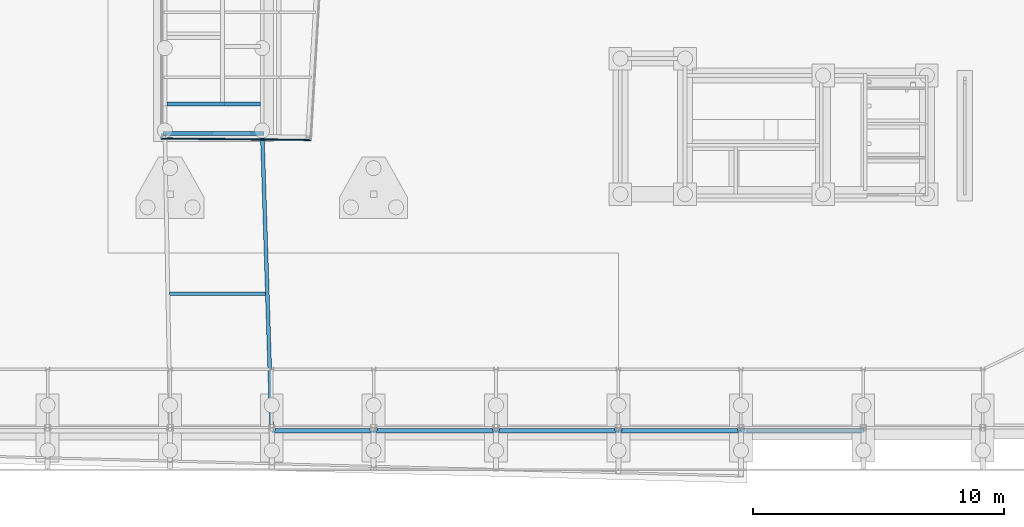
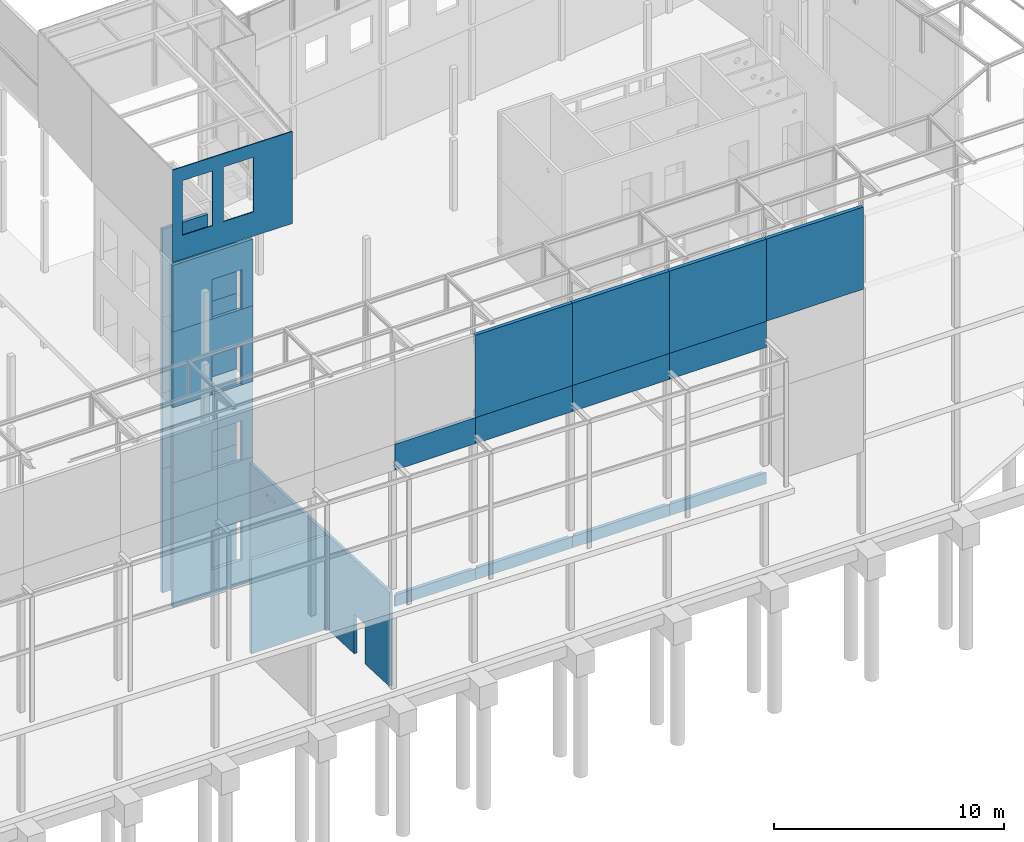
# One storey, part 73 of 82: 23 walls.
"""IFC2X3 building model written with IfcOpenShell, lengths in millimetres."""

from ifc_helpers import new_model, si_unit, frame, frame_2d, origin_with_axes, place, context, subcontext, project, spatial, polyline, rectangle, circle, outline, extrude, boolean, clip, halfspace, material, layer, layer_set, layer_usage, type_object, element, save


model = new_model("IFC2X3")

# Units and contexts
model_context = context("Model", 3, precision=1e-05, world=origin_with_axes())
body_context = subcontext(model_context, "Body", "Model", "MODEL_VIEW")
ifc_project = project(units=[si_unit("LENGTHUNIT", "METRE", prefix="MILLI"), si_unit("AREAUNIT", "SQUARE_METRE"), si_unit("VOLUMEUNIT", "CUBIC_METRE"), si_unit("MASSUNIT", "GRAM", prefix="KILO"), si_unit("TIMEUNIT", "SECOND"), si_unit("PLANEANGLEUNIT", "RADIAN"), si_unit("SOLIDANGLEUNIT", "STERADIAN"), si_unit("THERMODYNAMICTEMPERATUREUNIT", "DEGREE_CELSIUS"), si_unit("LUMINOUSINTENSITYUNIT", "LUMEN")], contexts=[model_context])

# Site, building, storey
site_placement = place(None, origin_with_axes())
site = spatial("IfcSite", under=ifc_project, at=site_placement, Name="Undefined", CompositionType="ELEMENT")
building_placement = place(site_placement, origin_with_axes())
building = spatial("IfcBuilding", under=site, at=building_placement, Name="Undefined", CompositionType="ELEMENT")
storey_placement = place(building_placement, origin_with_axes())
storey = spatial("IfcBuildingStorey", under=building, at=storey_placement, Name="Undefined", CompositionType="ELEMENT", Elevation=0.0)

# Walls
ifc_material_1 = material(Name="CONCRETE/C25/30")
ifc_layer_1 = layer(ifc_material_1, 150.0)
ifc_layer_set_1 = layer_set([ifc_layer_1], Name="Wall: Insitu CONCRETE/C25/30")
ifc_layer_usage_1 = layer_usage(ifc_layer_set_1, "AXIS2", "POSITIVE", -75.0)
wall_type_1 = type_object("IfcWallType", Name="4025*150", PredefinedType="NOTDEFINED")
wall_1_placement = place(storey_placement, frame((32848.7356613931, 12890.0686918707, 9305.0), z_axis=(0.0, 0.0, 1.0), x_axis=(-1.0, 0.0, 0.0)))
element("IfcWallStandardCase", 1, at=wall_1_placement, inside=storey, type_object=wall_type_1, material=ifc_layer_usage_1, Name="VOILE_15CM", ObjectType="4025*150", context=body_context, shape_type="SweptSolid", body=[
    extrude(rectangle(XDim=3724.97206241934, YDim=150.0, at=frame_2d((0.0, 1862.48603121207), x_axis=(0.0, -1.0))), frame((0.0, 0.0, 0.0), z_axis=(0.0, 0.0, 1.0), x_axis=(-2.77555756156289e-17, -1.0, 0.0)), (0.0, 0.0, 1.0), 4025.0),
])
ifc_layer_usage_2 = layer_usage(ifc_layer_set_1, "AXIS2", "POSITIVE", -75.0)
wall_2_placement = place(storey_placement, frame((28973.7636613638, 11719.9226121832, 9305.0), z_axis=(0.0, 0.0, 1.0), x_axis=(1.0, 0.0, 0.0)))
element("IfcWallStandardCase", 2, at=wall_2_placement, inside=storey, type_object=wall_type_1, material=ifc_layer_usage_2, Name="VOILE_15CM", ObjectType="4025*150", context=body_context, shape_type="CSG", body=[
    boolean("DIFFERENCE", extrude(rectangle(XDim=4024.97200000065, YDim=150.0, at=frame_2d((0.0, 2012.48600000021), x_axis=(0.0, -1.0))), frame((0.0, 0.0, 0.0), z_axis=(0.0, 0.0, 1.0), x_axis=(-2.77555756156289e-17, -1.0, 0.0)), (0.0, 0.0, 1.0), 4025.0), extrude(outline(polyline([(5.17284206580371e-08, 4.49290382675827e-10), (2100.0, 5.82076609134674e-11), (2100.0, 1499.99999999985), (0.0, 1499.99999999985), (5.17284206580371e-08, 4.49290382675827e-10)])), frame((1973.69953753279, 84.9999999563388, 2100.0), z_axis=(-2.77555756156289e-17, -1.0, 0.0), x_axis=(0.0, -6.50000002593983e-08, -0.999999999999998)), (0.0, 0.0, 1.0), 170.0)),
])
ifc_layer_usage_3 = layer_usage(ifc_layer_set_1, "AXIS2", "POSITIVE", -75.0)
wall_type_2 = type_object("IfcWallType", Name="4005*150", PredefinedType="NOTDEFINED")
wall_3_placement = place(storey_placement, frame((32848.7356613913, 12890.06869187, 5300.0), z_axis=(0.0, 0.0, 1.0), x_axis=(-1.0, 0.0, 0.0)))
element("IfcWallStandardCase", 3, at=wall_3_placement, inside=storey, type_object=wall_type_2, material=ifc_layer_usage_3, Name="VOILE_15CM", ObjectType="4005*150", context=body_context, shape_type="SweptSolid", body=[
    extrude(rectangle(XDim=3724.97206241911, YDim=150.0, at=frame_2d((0.0, 1862.48603121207), x_axis=(0.0, -1.0))), frame((0.0, 0.0, 0.0), z_axis=(0.0, 0.0, 1.0), x_axis=(-2.77555756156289e-17, -1.0, 0.0)), (0.0, 0.0, 1.0), 4005.0),
])
ifc_layer_usage_4 = layer_usage(ifc_layer_set_1, "AXIS2", "POSITIVE", -75.0)
wall_4_placement = place(storey_placement, frame((28973.7636613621, 11719.9226121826, 5300.0), z_axis=(0.0, 0.0, 1.0), x_axis=(1.0, 0.0, 0.0)))
element("IfcWallStandardCase", 4, at=wall_4_placement, inside=storey, type_object=wall_type_2, material=ifc_layer_usage_4, Name="VOILE_15CM", ObjectType="4005*150", context=body_context, shape_type="CSG", body=[
    boolean("DIFFERENCE", extrude(rectangle(XDim=4024.97200000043, YDim=150.0, at=frame_2d((0.0, 2012.48600000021), x_axis=(0.0, -1.0))), frame((0.0, 0.0, 0.0), z_axis=(0.0, 0.0, 1.0), x_axis=(-2.77555756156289e-17, -1.0, 0.0)), (0.0, 0.0, 1.0), 4005.0), extrude(outline(polyline([(5.17284206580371e-08, 4.49290382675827e-10), (2100.0, 5.82076609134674e-11), (2100.0, 1499.99999999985), (0.0, 1499.99999999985), (5.17284206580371e-08, 4.49290382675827e-10)])), frame((1973.69953753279, 84.9999999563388, 2100.0), z_axis=(-2.77555756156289e-17, -1.0, 0.0), x_axis=(0.0, -6.50000002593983e-08, -0.999999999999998)), (0.0, 0.0, 1.0), 170.0)),
])
ifc_material_2 = material(Name="STEEL/Steel_Undefined")
wall_type_3 = type_object("IfcWallType", Name="4900*50", PredefinedType="NOTDEFINED")
wall_5_placement = place(storey_placement, frame((28874.0020252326, 11517.9358902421, 17160.0003814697), z_axis=(0.0, 0.0, 1.0), x_axis=(0.999954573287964, -0.00953159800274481, 0.0)))
element("IfcWall", 5, at=wall_5_placement, inside=storey, type_object=wall_type_3, material=ifc_material_2, Name="HABILLAGE", ObjectType="4900*50", context=body_context, shape_type="CSG", body=[
    boolean("DIFFERENCE", boolean("DIFFERENCE", boolean("DIFFERENCE", boolean("DIFFERENCE", extrude(rectangle(XDim=6165.08584969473, YDim=50.0, at=frame_2d((0.0, 2999.43954166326), x_axis=(0.0, -1.0))), frame((0.0, 0.0, 0.0), z_axis=(0.0, 0.0, 1.0), x_axis=(-2.77555756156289e-17, -1.0, 0.0)), (0.0, 0.0, 1.0), 4900.0), extrude(rectangle(XDim=1500.0, YDim=2900.0, at=frame_2d((5.17284206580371e-08, 4.49290382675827e-10), x_axis=(1.0, 0.0))), frame((3305.65886127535, -35.0000000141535, 2739.99972534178), z_axis=(0.0, 1.0, 0.0), x_axis=(-1.0, 0.0, 0.0)), (0.0, 0.0, 1.0), 70.0)), extrude(rectangle(XDim=1500.0, YDim=2900.0, at=frame_2d((5.17284206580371e-08, 4.49290382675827e-10), x_axis=(1.0, 0.0))), frame((1255.88246330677, -35.0000000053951, 2715.00010681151), z_axis=(0.0, 1.0, 0.0), x_axis=(-1.0, 0.0, 0.0)), (0.0, 0.0, 1.0), 70.0)), halfspace(frame((5997.91969449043, -25.0000000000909, 2450.0), z_axis=(0.724445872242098, 0.689331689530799, 0.0), x_axis=(0.0, 0.0, 1.0)), False)), halfspace(frame((-0.0152597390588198, -25.0000000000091, 2450.0), z_axis=(0.71046795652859, -0.703729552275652, 0.0), x_axis=(0.0, 0.0, 1.0)), True)),
])
ifc_layer_2 = layer(ifc_material_1, 180.0)
ifc_layer_set_2 = layer_set([ifc_layer_2], Name="Wall: Insitu CONCRETE/C25/30")
ifc_layer_usage_5 = layer_usage(ifc_layer_set_2, "AXIS2", "POSITIVE", -90.0)
wall_type_4 = type_object("IfcWallType", Name="4370*180", PredefinedType="NOTDEFINED")
wall_6_placement = place(storey_placement, frame((42224.9999851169, -104.99999994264, 13030.0), z_axis=(0.0, 0.0, 1.0), x_axis=(-1.0, 0.0, 0.0)))
element("IfcWallStandardCase", 6, at=wall_6_placement, inside=storey, type_object=wall_type_4, material=ifc_layer_usage_5, Name="PANNEAU_FACADE", ObjectType="4370*180", context=body_context, shape_type="CSG", body=[
    boolean("DIFFERENCE", boolean("DIFFERENCE", extrude(rectangle(XDim=4874.99998420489, YDim=180.0, at=frame_2d((0.0, 2437.49999210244), x_axis=(0.0, -1.0))), frame((0.0, 0.0, 0.0), z_axis=(0.0, 0.0, 1.0), x_axis=(-2.77555756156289e-17, -1.0, 0.0)), (0.0, 0.0, 1.0), 4370.0), extrude(rectangle(XDim=265.0, YDim=265.0, at=frame_2d((5.17284206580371e-08, 4.49290382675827e-10), x_axis=(1.0, 0.0))), frame((-1.48822146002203e-05, -104.999999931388, 3830.0), z_axis=(0.0, -6.50000002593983e-08, -0.999999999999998), x_axis=(1.0, 0.0, 0.0)), (0.0, 0.0, 1.0), 3530.0)), extrude(rectangle(XDim=265.0, YDim=265.0, at=frame_2d((5.17284206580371e-08, 4.49290382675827e-10), x_axis=(1.0, 0.0))), frame((4874.99998511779, -104.999999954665, 3830.0), z_axis=(0.0, -6.50000002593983e-08, -0.999999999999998), x_axis=(1.0, 0.0, 0.0)), (0.0, 0.0, 1.0), 3530.0)),
])
ifc_layer_usage_6 = layer_usage(ifc_layer_set_2, "AXIS2", "POSITIVE", -90.0)
wall_7_placement = place(storey_placement, frame((47099.9999851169, -104.999999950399, 13030.0), z_axis=(0.0, 0.0, 1.0), x_axis=(-1.0, 0.0, 0.0)))
element("IfcWallStandardCase", 7, at=wall_7_placement, inside=storey, type_object=wall_type_4, material=ifc_layer_usage_6, Name="PANNEAU_FACADE", ObjectType="4370*180", context=body_context, shape_type="CSG", body=[
    boolean("DIFFERENCE", boolean("DIFFERENCE", extrude(rectangle(XDim=4874.99998420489, YDim=180.0, at=frame_2d((0.0, 2437.49999210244), x_axis=(0.0, -1.0))), frame((0.0, 0.0, 0.0), z_axis=(0.0, 0.0, 1.0), x_axis=(-2.77555756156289e-17, -1.0, 0.0)), (0.0, 0.0, 1.0), 4370.0), extrude(rectangle(XDim=265.0, YDim=265.0, at=frame_2d((5.17284206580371e-08, 4.49290382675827e-10), x_axis=(1.0, 0.0))), frame((-1.48822146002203e-05, -104.999999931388, 3830.0), z_axis=(0.0, -6.50000002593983e-08, -0.999999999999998), x_axis=(1.0, 0.0, 0.0)), (0.0, 0.0, 1.0), 3530.0)), extrude(rectangle(XDim=265.0, YDim=265.0, at=frame_2d((5.17284206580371e-08, 4.49290382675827e-10), x_axis=(1.0, 0.0))), frame((4874.99998511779, -104.999999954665, 3830.0), z_axis=(0.0, -6.50000002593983e-08, -0.999999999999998), x_axis=(1.0, 0.0, 0.0)), (0.0, 0.0, 1.0), 3530.0)),
])
ifc_layer_usage_7 = layer_usage(ifc_layer_set_2, "AXIS2", "POSITIVE", -90.0)
wall_8_placement = place(storey_placement, frame((51974.9999851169, -104.999999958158, 13030.0), z_axis=(0.0, 0.0, 1.0), x_axis=(-1.0, 0.0, 0.0)))
element("IfcWallStandardCase", 8, at=wall_8_placement, inside=storey, type_object=wall_type_4, material=ifc_layer_usage_7, Name="PANNEAU_FACADE", ObjectType="4370*180", context=body_context, shape_type="CSG", body=[
    boolean("DIFFERENCE", boolean("DIFFERENCE", extrude(rectangle(XDim=4874.99998420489, YDim=180.0, at=frame_2d((0.0, 2437.49999210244), x_axis=(0.0, -1.0))), frame((0.0, 0.0, 0.0), z_axis=(0.0, 0.0, 1.0), x_axis=(-2.77555756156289e-17, -1.0, 0.0)), (0.0, 0.0, 1.0), 4370.0), extrude(rectangle(XDim=265.0, YDim=265.0, at=frame_2d((5.17284206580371e-08, 4.49290382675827e-10), x_axis=(1.0, 0.0))), frame((-1.48822146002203e-05, -104.999999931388, 3830.0), z_axis=(0.0, -6.50000002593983e-08, -0.999999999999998), x_axis=(1.0, 0.0, 0.0)), (0.0, 0.0, 1.0), 3530.0)), extrude(rectangle(XDim=265.0, YDim=265.0, at=frame_2d((5.17284206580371e-08, 4.49290382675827e-10), x_axis=(1.0, 0.0))), frame((4874.99998511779, -104.999999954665, 3830.0), z_axis=(0.0, -6.50000002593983e-08, -0.999999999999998), x_axis=(1.0, 0.0, 0.0)), (0.0, 0.0, 1.0), 3530.0)),
])
ifc_layer_usage_8 = layer_usage(ifc_layer_set_2, "AXIS2", "POSITIVE", -90.0)
wall_9_placement = place(storey_placement, frame((56849.9999851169, -104.999999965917, 13030.0), z_axis=(0.0, 0.0, 1.0), x_axis=(-1.0, 0.0, 0.0)))
element("IfcWallStandardCase", 9, at=wall_9_placement, inside=storey, type_object=wall_type_4, material=ifc_layer_usage_8, Name="PANNEAU_FACADE", ObjectType="4370*180", context=body_context, shape_type="CSG", body=[
    boolean("DIFFERENCE", boolean("DIFFERENCE", extrude(rectangle(XDim=4874.99998420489, YDim=180.0, at=frame_2d((0.0, 2437.49999210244), x_axis=(0.0, -1.0))), frame((0.0, 0.0, 0.0), z_axis=(0.0, 0.0, 1.0), x_axis=(-2.77555756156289e-17, -1.0, 0.0)), (0.0, 0.0, 1.0), 4370.0), extrude(rectangle(XDim=265.0, YDim=265.0, at=frame_2d((5.17284206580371e-08, 4.49290382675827e-10), x_axis=(1.0, 0.0))), frame((-1.48822146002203e-05, -104.999999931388, 3830.0), z_axis=(0.0, -6.50000002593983e-08, -0.999999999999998), x_axis=(1.0, 0.0, 0.0)), (0.0, 0.0, 1.0), 3530.0)), extrude(rectangle(XDim=265.0, YDim=265.0, at=frame_2d((5.17284206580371e-08, 4.49290382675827e-10), x_axis=(1.0, 0.0))), frame((4874.99998511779, -104.999999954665, 3830.0), z_axis=(0.0, -6.50000002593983e-08, -0.999999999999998), x_axis=(1.0, 0.0, 0.0)), (0.0, 0.0, 1.0), 3530.0)),
])
ifc_layer_usage_9 = layer_usage(ifc_layer_set_1, "AXIS2", "POSITIVE", -75.0)
wall_type_5 = type_object("IfcWallType", Name="3530*150", PredefinedType="NOTDEFINED")
wall_10_placement = place(storey_placement, frame((28973.7636613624, 11719.9226121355, 13330.0), z_axis=(0.0, 0.0, 1.0), x_axis=(1.0, 0.0, 0.0)))
element("IfcWallStandardCase", 10, at=wall_10_placement, inside=storey, type_object=wall_type_5, material=ifc_layer_usage_9, Name="VOILE_15CM", ObjectType="3530*150", context=body_context, shape_type="CSG", body=[
    boolean("DIFFERENCE", extrude(rectangle(XDim=4024.97199999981, YDim=150.0, at=frame_2d((0.0, 2012.48600000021), x_axis=(0.0, -1.0))), frame((0.0, 0.0, 0.0), z_axis=(0.0, 0.0, 1.0), x_axis=(-2.77555756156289e-17, -1.0, 0.0)), (0.0, 0.0, 1.0), 3530.0), extrude(outline(polyline([(5.17284206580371e-08, 4.49290382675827e-10), (2100.0, 5.82076609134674e-11), (2100.0, 1499.99999999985), (0.0, 1499.99999999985), (5.17284206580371e-08, 4.49290382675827e-10)])), frame((1973.69953753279, 84.9999999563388, 2100.0), z_axis=(-2.77555756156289e-17, -1.0, 0.0), x_axis=(0.0, -6.50000002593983e-08, -0.999999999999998)), (0.0, 0.0, 1.0), 170.0)),
])
ifc_layer_usage_10 = layer_usage(ifc_layer_set_1, "AXIS2", "POSITIVE", -75.0)
wall_type_6 = type_object("IfcWallType", Name="4700*150", PredefinedType="NOTDEFINED")
wall_11_placement = place(storey_placement, frame((32848.7356613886, 12890.0686917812, 13330.0), z_axis=(0.0, 0.0, 1.0), x_axis=(-1.0, 0.0, 0.0)))
element("IfcWallStandardCase", 11, at=wall_11_placement, inside=storey, type_object=wall_type_6, material=ifc_layer_usage_10, Name="VOILE_15CM", ObjectType="4700*150", context=body_context, shape_type="CSG", body=[
    boolean("DIFFERENCE", extrude(rectangle(XDim=3724.97206242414, YDim=150.0, at=frame_2d((0.0, 1862.48603121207), x_axis=(0.0, -1.0))), frame((0.0, 0.0, 0.0), z_axis=(0.0, 0.0, 1.0), x_axis=(-2.77555756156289e-17, -1.0, 0.0)), (0.0, 0.0, 1.0), 4700.0), extrude(outline(polyline([(5.17284206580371e-08, 4.49290382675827e-10), (1470.0, 1.2732925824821e-10), (1470.0, 1429.97204589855), (0.0, 1429.97204589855), (5.17284206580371e-08, 4.49290382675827e-10)])), frame((1429.97203121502, -77.500000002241, 5000.0), z_axis=(0.0, 1.0, 0.0), x_axis=(0.0, -6.50000002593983e-08, -0.999999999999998)), (0.0, 0.0, 1.0), 155.0)),
])
ifc_layer_usage_11 = layer_usage(ifc_layer_set_2, "AXIS2", "POSITIVE", -90.0)
wall_type_7 = type_object("IfcWallType", Name="1380*180", PredefinedType="NOTDEFINED")
wall_12_placement = place(storey_placement, frame((37349.9999851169, -104.99999993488, 11650.0), z_axis=(0.0, 0.0, 1.0), x_axis=(-1.0, 0.0, 0.0)))
element("IfcWallStandardCase", 12, at=wall_12_placement, inside=storey, type_object=wall_type_7, material=ifc_layer_usage_11, Name="PANNEAU_FACADE", ObjectType="1380*180", context=body_context, shape_type="CSG", body=[
    boolean("DIFFERENCE", boolean("DIFFERENCE", extrude(rectangle(XDim=4049.999985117, YDim=180.0, at=frame_2d((0.0, 2024.9999925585), x_axis=(0.0, -1.0))), frame((0.0, 0.0, 0.0), z_axis=(0.0, 0.0, 1.0), x_axis=(-2.77555756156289e-17, -1.0, 0.0)), (0.0, 0.0, 1.0), 1380.0), extrude(rectangle(XDim=265.0, YDim=265.0, at=frame_2d((5.17284206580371e-08, 4.49290382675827e-10), x_axis=(1.0, 0.0))), frame((4050.00000000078, -104.999999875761, 1380.0), z_axis=(0.0, -6.50000002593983e-08, -0.999999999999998), x_axis=(1.0, 0.0, 0.0)), (0.0, 0.0, 1.0), 7730.0)), extrude(rectangle(XDim=265.0, YDim=265.0, at=frame_2d((5.17284206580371e-08, 4.49290382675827e-10), x_axis=(1.0, 0.0))), frame((7.71251507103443e-10, -104.999999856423, 1380.0), z_axis=(0.0, -6.50000002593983e-08, -0.999999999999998), x_axis=(1.0, 0.0, 0.0)), (0.0, 0.0, 1.0), 7730.0)),
])
ifc_layer_usage_12 = layer_usage(ifc_layer_set_2, "AXIS2", "POSITIVE", -90.0)
wall_13_placement = place(storey_placement, frame((42224.9999851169, -104.99999994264, 11650.0), z_axis=(0.0, 0.0, 1.0), x_axis=(-1.0, 0.0, 0.0)))
element("IfcWallStandardCase", 13, at=wall_13_placement, inside=storey, type_object=wall_type_7, material=ifc_layer_usage_12, Name="PANNEAU_FACADE", ObjectType="1380*180", context=body_context, shape_type="CSG", body=[
    boolean("DIFFERENCE", boolean("DIFFERENCE", extrude(rectangle(XDim=4874.99998420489, YDim=180.0, at=frame_2d((0.0, 2437.49999210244), x_axis=(0.0, -1.0))), frame((0.0, 0.0, 0.0), z_axis=(0.0, 0.0, 1.0), x_axis=(-2.77555756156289e-17, -1.0, 0.0)), (0.0, 0.0, 1.0), 1380.0), extrude(rectangle(XDim=260.0, YDim=260.0, at=frame_2d((5.17284206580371e-08, 4.49290382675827e-10), x_axis=(1.0, 0.0))), frame((4874.99998514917, -104.999999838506, 1380.0), z_axis=(0.0, -6.50000002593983e-08, -0.999999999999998), x_axis=(1.0, 0.0, 0.0)), (0.0, 0.0, 1.0), 7730.0)), extrude(rectangle(XDim=265.0, YDim=265.0, at=frame_2d((5.17284206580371e-08, 4.49290382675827e-10), x_axis=(1.0, 0.0))), frame((7.71251507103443e-10, -104.999999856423, 1380.0), z_axis=(0.0, -6.50000002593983e-08, -0.999999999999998), x_axis=(1.0, 0.0, 0.0)), (0.0, 0.0, 1.0), 7730.0)),
])
ifc_layer_usage_13 = layer_usage(ifc_layer_set_2, "AXIS2", "POSITIVE", -90.0)
wall_14_placement = place(storey_placement, frame((47099.9999851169, -104.999999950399, 11650.0), z_axis=(0.0, 0.0, 1.0), x_axis=(-1.0, 0.0, 0.0)))
element("IfcWallStandardCase", 14, at=wall_14_placement, inside=storey, type_object=wall_type_7, material=ifc_layer_usage_13, Name="PANNEAU_FACADE", ObjectType="1380*180", context=body_context, shape_type="CSG", body=[
    boolean("DIFFERENCE", boolean("DIFFERENCE", extrude(rectangle(XDim=4874.99998420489, YDim=180.0, at=frame_2d((0.0, 2437.49999210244), x_axis=(0.0, -1.0))), frame((0.0, 0.0, 0.0), z_axis=(0.0, 0.0, 1.0), x_axis=(-2.77555756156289e-17, -1.0, 0.0)), (0.0, 0.0, 1.0), 1380.0), extrude(rectangle(XDim=265.0, YDim=265.0, at=frame_2d((5.17284206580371e-08, 4.49290382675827e-10), x_axis=(1.0, 0.0))), frame((4874.99998514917, -104.999999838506, 1380.0), z_axis=(0.0, -6.50000002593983e-08, -0.999999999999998), x_axis=(1.0, 0.0, 0.0)), (0.0, 0.0, 1.0), 7730.0)), extrude(rectangle(XDim=265.0, YDim=265.0, at=frame_2d((5.17284206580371e-08, 4.49290382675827e-10), x_axis=(1.0, 0.0))), frame((7.71251507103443e-10, -104.999999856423, 1380.0), z_axis=(0.0, -6.50000002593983e-08, -0.999999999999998), x_axis=(1.0, 0.0, 0.0)), (0.0, 0.0, 1.0), 7730.0)),
])
ifc_layer_usage_14 = layer_usage(ifc_layer_set_2, "AXIS2", "POSITIVE", -90.0)
wall_15_placement = place(storey_placement, frame((51974.9999851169, -104.999999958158, 11650.0), z_axis=(0.0, 0.0, 1.0), x_axis=(-1.0, 0.0, 0.0)))
solid_1 = boolean("DIFFERENCE", extrude(rectangle(XDim=4874.99999908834, YDim=180.0, at=frame_2d((0.0, 2437.49999210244), x_axis=(0.0, -1.0))), frame((-4875.00001488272, 3.15192068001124e-07, 14305.0), z_axis=(0.0, 0.0, 1.0), x_axis=(-2.77555756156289e-17, -1.0, 0.0)), (0.0, 0.0, 1.0), 3725.0), extrude(outline(polyline([(5.17284206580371e-08, 4.49290382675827e-10), (249.434494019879, 4.18367562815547e-10), (249.418747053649, 14305.0000000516), (-0.0157491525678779, 14305.000000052), (5.17284206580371e-08, 4.49290382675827e-10)])), frame((-1.57948306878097e-05, 87.5000000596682, 0.0), z_axis=(0.0, 1.0, 0.0), x_axis=(-0.999999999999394, 0.0, -1.10100000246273e-06)), (0.0, 0.0, 1.0), 185.0))
solid_2 = boolean("DIFFERENCE", extrude(rectangle(XDim=265.0, YDim=265.0, at=frame_2d((5.17284206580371e-08, 4.49290382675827e-10), x_axis=(1.0, 0.0))), frame((7.71251507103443e-10, -104.999999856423, 1380.0), z_axis=(0.0, -6.50000002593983e-08, -0.999999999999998), x_axis=(1.0, 0.0, 0.0)), (0.0, 0.0, 1.0), 3725.0), solid_1)
element("IfcWallStandardCase", 15, at=wall_15_placement, inside=storey, type_object=wall_type_7, material=ifc_layer_usage_14, Name="PANNEAU_FACADE", ObjectType="1380*180", context=body_context, shape_type="CSG", body=[
    boolean("DIFFERENCE", boolean("DIFFERENCE", extrude(rectangle(XDim=4874.99998420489, YDim=180.0, at=frame_2d((0.0, 2437.49999210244), x_axis=(0.0, -1.0))), frame((0.0, 0.0, 0.0), z_axis=(0.0, 0.0, 1.0), x_axis=(-2.77555756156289e-17, -1.0, 0.0)), (0.0, 0.0, 1.0), 1380.0), extrude(rectangle(XDim=265.0, YDim=265.0, at=frame_2d((5.17284206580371e-08, 4.49290382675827e-10), x_axis=(1.0, 0.0))), frame((4874.99998514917, -104.999999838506, 1380.0), z_axis=(0.0, -6.50000002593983e-08, -0.999999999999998), x_axis=(1.0, 0.0, 0.0)), (0.0, 0.0, 1.0), 7730.0)), solid_2),
])
ifc_layer_usage_15 = layer_usage(ifc_layer_set_2, "AXIS2", "POSITIVE", -90.0)
wall_type_8 = type_object("IfcWallType", Name="600*180", PredefinedType="NOTDEFINED")
wall_16_placement = place(storey_placement, frame((37350.0000482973, -104.99999993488, 4400.0), z_axis=(0.0, 0.0, 1.0), x_axis=(-1.0, 0.0, 0.0)))
element("IfcWallStandardCase", 16, at=wall_16_placement, inside=storey, type_object=wall_type_8, material=ifc_layer_usage_15, Name="PANNEAU_FACADE", ObjectType="600*180", context=body_context, shape_type="CSG", body=[
    boolean("DIFFERENCE", boolean("DIFFERENCE", extrude(rectangle(XDim=4049.99998420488, YDim=180.0, at=frame_2d((0.0, 2024.9999925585), x_axis=(0.0, -1.0))), frame((0.0, 0.0, 0.0), z_axis=(0.0, 0.0, 1.0), x_axis=(-2.77555756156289e-17, -1.0, 0.0)), (0.0, 0.0, 1.0), 600.0), extrude(rectangle(XDim=265.0, YDim=265.0, at=frame_2d((5.17284206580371e-08, 4.49290382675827e-10), x_axis=(1.0, 0.0))), frame((4050.00006462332, -105.000000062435, 11800.0), z_axis=(0.0, -6.50000002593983e-08, -0.999999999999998), x_axis=(1.0, 0.0, 0.0)), (0.0, 0.0, 1.0), 16650.0)), extrude(rectangle(XDim=265.0, YDim=265.0, at=frame_2d((5.17284206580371e-08, 4.49290382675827e-10), x_axis=(1.0, 0.0))), frame((6.45597028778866e-05, -105.000000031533, 11800.0), z_axis=(0.0, -6.50000002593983e-08, -0.999999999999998), x_axis=(1.0, 0.0, 0.0)), (0.0, 0.0, 1.0), 16650.0)),
])
ifc_layer_usage_16 = layer_usage(ifc_layer_set_2, "AXIS2", "POSITIVE", -90.0)
wall_17_placement = place(storey_placement, frame((42225.0000325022, -104.99999994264, 4400.0), z_axis=(0.0, 0.0, 1.0), x_axis=(-1.0, 0.0, 0.0)))
element("IfcWallStandardCase", 17, at=wall_17_placement, inside=storey, type_object=wall_type_8, material=ifc_layer_usage_16, Name="PANNEAU_FACADE", ObjectType="600*180", context=body_context, shape_type="CSG", body=[
    boolean("DIFFERENCE", boolean("DIFFERENCE", extrude(rectangle(XDim=4874.99998420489, YDim=180.0, at=frame_2d((0.0, 2437.49999210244), x_axis=(0.0, -1.0))), frame((0.0, 0.0, 0.0), z_axis=(0.0, 0.0, 1.0), x_axis=(-2.77555756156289e-17, -1.0, 0.0)), (0.0, 0.0, 1.0), 600.0), extrude(rectangle(XDim=265.0, YDim=265.0, at=frame_2d((5.17284206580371e-08, 4.49290382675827e-10), x_axis=(1.0, 0.0))), frame((4875.00003290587, -105.000000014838, 11800.0), z_axis=(0.0, -6.50000002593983e-08, -0.999999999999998), x_axis=(1.0, 0.0, 0.0)), (0.0, 0.0, 1.0), 16650.0)), extrude(rectangle(XDim=265.0, YDim=265.0, at=frame_2d((5.17284206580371e-08, 4.49290382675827e-10), x_axis=(1.0, 0.0))), frame((6.45597028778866e-05, -105.000000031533, 11800.0), z_axis=(0.0, -6.50000002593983e-08, -0.999999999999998), x_axis=(1.0, 0.0, 0.0)), (0.0, 0.0, 1.0), 16650.0)),
])
ifc_layer_usage_17 = layer_usage(ifc_layer_set_2, "AXIS2", "POSITIVE", -90.0)
wall_18_placement = place(storey_placement, frame((47100.0000167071, -104.999999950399, 4400.0), z_axis=(0.0, 0.0, 1.0), x_axis=(-1.0, 0.0, 0.0)))
element("IfcWallStandardCase", 18, at=wall_18_placement, inside=storey, type_object=wall_type_8, material=ifc_layer_usage_17, Name="PANNEAU_FACADE", ObjectType="600*180", context=body_context, shape_type="CSG", body=[
    boolean("DIFFERENCE", boolean("DIFFERENCE", extrude(rectangle(XDim=4874.99998420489, YDim=180.0, at=frame_2d((0.0, 2437.49999210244), x_axis=(0.0, -1.0))), frame((0.0, 0.0, 0.0), z_axis=(0.0, 0.0, 1.0), x_axis=(-2.77555756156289e-17, -1.0, 0.0)), (0.0, 0.0, 1.0), 600.0), extrude(rectangle(XDim=265.0, YDim=265.0, at=frame_2d((5.17284206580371e-08, 4.49290382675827e-10), x_axis=(1.0, 0.0))), frame((4875.00003290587, -105.000000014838, 11800.0), z_axis=(0.0, -6.50000002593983e-08, -0.999999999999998), x_axis=(1.0, 0.0, 0.0)), (0.0, 0.0, 1.0), 16650.0)), extrude(rectangle(XDim=265.0, YDim=265.0, at=frame_2d((5.17284206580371e-08, 4.49290382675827e-10), x_axis=(1.0, 0.0))), frame((6.45597028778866e-05, -105.000000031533, 11800.0), z_axis=(0.0, -6.50000002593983e-08, -0.999999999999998), x_axis=(1.0, 0.0, 0.0)), (0.0, 0.0, 1.0), 16650.0)),
])
ifc_layer_usage_18 = layer_usage(ifc_layer_set_2, "AXIS2", "POSITIVE", -90.0)
wall_19_placement = place(storey_placement, frame((51975.000000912, -104.999999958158, 4400.0), z_axis=(0.0, 0.0, 1.0), x_axis=(-1.0, 0.0, 0.0)))
element("IfcWallStandardCase", 19, at=wall_19_placement, inside=storey, type_object=wall_type_8, material=ifc_layer_usage_18, Name="PANNEAU_FACADE", ObjectType="600*180", context=body_context, shape_type="CSG", body=[
    boolean("DIFFERENCE", boolean("DIFFERENCE", extrude(rectangle(XDim=4874.99998420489, YDim=180.0, at=frame_2d((0.0, 2437.49999210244), x_axis=(0.0, -1.0))), frame((0.0, 0.0, 0.0), z_axis=(0.0, 0.0, 1.0), x_axis=(-2.77555756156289e-17, -1.0, 0.0)), (0.0, 0.0, 1.0), 600.0), extrude(rectangle(XDim=265.0, YDim=265.0, at=frame_2d((5.17284206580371e-08, 4.49290382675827e-10), x_axis=(1.0, 0.0))), frame((4875.00003290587, -105.000000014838, 11800.0), z_axis=(0.0, -6.50000002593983e-08, -0.999999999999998), x_axis=(1.0, 0.0, 0.0)), (0.0, 0.0, 1.0), 16650.0)), extrude(rectangle(XDim=265.0, YDim=265.0, at=frame_2d((5.17284206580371e-08, 4.49290382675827e-10), x_axis=(1.0, 0.0))), frame((1.08595850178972e-06, -104.999999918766, 11800.0), z_axis=(0.0, -6.50000002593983e-08, -0.999999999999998), x_axis=(1.0, 0.0, 0.0)), (0.0, 0.0, 1.0), 16650.0)),
])
ifc_material_3 = material(Name="CONCRETE/BRIQUE")
wall_type_9 = type_object("IfcWallType", Name="5000*150", PredefinedType="NOTDEFINED")
wall_20_placement = place(storey_placement, frame((33292.1371443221, -2.37115554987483, 0.0), z_axis=(0.0, 0.0, 1.0), x_axis=(-0.0316171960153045, 0.999500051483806, 0.0)))
solid_3 = boolean("DIFFERENCE", boolean("DIFFERENCE", boolean("DIFFERENCE", boolean("DIFFERENCE", boolean("DIFFERENCE", boolean("DIFFERENCE", boolean("DIFFERENCE", boolean("DIFFERENCE", extrude(rectangle(XDim=11541.5601474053, YDim=150.0, at=frame_2d((0.0, 5892.77854747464), x_axis=(0.0, -1.0))), frame((0.0, 0.0, 0.0), z_axis=(0.0, 0.0, 1.0), x_axis=(-2.77555756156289e-17, -1.0, 0.0)), (0.0, 0.0, 1.0), 5000.0), extrude(circle(Radius=200.0, at=frame_2d((5.17284206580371e-08, 4.49290382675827e-10), x_axis=(1.0, 0.0))), frame((2852.78409394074, -85.0000000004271, 3800.00048828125), z_axis=(0.0, 1.0, 0.0), x_axis=(-1.0, 0.0, 0.0)), (0.0, 0.0, 1.0), 170.0)), extrude(circle(Radius=200.0, at=frame_2d((5.17284206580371e-08, 4.49290382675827e-10), x_axis=(1.0, 0.0))), frame((10916.6464507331, -85.000000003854, 3799.99953460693), z_axis=(0.0, 1.0, 0.0), x_axis=(-1.0, 0.0, 0.0)), (0.0, 0.0, 1.0), 170.0)), extrude(outline(polyline([(5.17284206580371e-08, 4.49290382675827e-10), (2100.0, 5.82076609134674e-11), (2100.0, 900.000000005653), (0.0, 900.000000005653), (5.17284206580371e-08, 4.49290382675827e-10)])), frame((3045.81029800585, -84.9999999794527, 2100.0), z_axis=(0.0, 1.0, 0.0), x_axis=(0.0, -6.50000002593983e-08, -0.999999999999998)), (0.0, 0.0, 1.0), 170.0)), extrude(outline(polyline([(5.17284206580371e-08, 4.49290382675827e-10), (2100.0, 5.82076609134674e-11), (2100.0, 900.000000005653), (0.0, 900.000000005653), (5.17284206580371e-08, 4.49290382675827e-10)])), frame((8968.45640464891, -84.9999999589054, 2100.0), z_axis=(0.0, 1.0, 0.0), x_axis=(0.0, -6.50000002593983e-08, -0.999999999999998)), (0.0, 0.0, 1.0), 170.0)), extrude(rectangle(XDim=700.0, YDim=150.0, at=frame_2d((5.17284206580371e-08, 4.49290382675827e-10), x_axis=(1.0, 0.0))), frame((9924.31873403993, -85.0000000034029, 4139.99968719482), z_axis=(0.0, 1.0, 0.0), x_axis=(-1.0, 0.0, 0.0)), (0.0, 0.0, 1.0), 170.0)), extrude(rectangle(XDim=974.0, YDim=2242.0692008, at=frame_2d((5.17284206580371e-08, 4.49290382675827e-10), x_axis=(1.0, 0.0))), frame((8518.4564048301, -225.000002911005, 1015.9653996), z_axis=(0.0, 1.0, 0.0), x_axis=(-1.0, 0.0, 0.0)), (0.0, 0.0, 1.0), 150.0)), extrude(rectangle(XDim=974.0, YDim=2242.0692008, at=frame_2d((5.17284206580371e-08, 4.49290382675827e-10), x_axis=(1.0, 0.0))), frame((2595.8102982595, -225.000000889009, 1015.9653996), z_axis=(0.0, 1.0, 0.0), x_axis=(-1.0, 0.0, 0.0)), (0.0, 0.0, 1.0), 150.0)), halfspace(frame((11653.1197275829, 1.95723259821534e-08, 1500.0), z_axis=(-0.999500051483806, 0.031617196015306, 0.0), x_axis=(0.031617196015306, 0.999500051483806, 0.0)), True))
element("IfcWall", 20, at=wall_20_placement, inside=storey, type_object=wall_type_9, material=ifc_material_3, Name="MACONNERIE_15CM", ObjectType="5000*150", context=body_context, shape_type="CSG", body=[
    boolean("DIFFERENCE", solid_3, halfspace(frame((132.437367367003, 1.26601662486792e-09, 1500.0), z_axis=(0.999500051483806, -0.0316171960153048, 0.0), x_axis=(-0.0316171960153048, -0.999500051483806, 0.0)), True)),
])
wall_21_placement = place(storey_placement, frame((29236.8967669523, 5334.94530476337, 0.0), z_axis=(0.0, 0.0, 1.0), x_axis=(1.0, 0.0, 0.0)))
element("IfcWall", 21, at=wall_21_placement, inside=storey, type_object=wall_type_9, material=ifc_material_3, Name="MACONNERIE_15CM", ObjectType="5000*150", context=body_context, shape_type="Clipping", body=[
    clip(clip(extrude(rectangle(XDim=3826.43226376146, YDim=150.0, at=frame_2d((0.0, 1906.36404694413), x_axis=(0.0, -1.0))), frame((0.0, 0.0, 0.0), z_axis=(0.0, 0.0, 1.0), x_axis=(-2.77555756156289e-17, -1.0, 0.0)), (0.0, 0.0, 1.0), 5000.0), halfspace(frame((3811.36747275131, -2.3603206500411e-08, 1500.0), z_axis=(-0.999500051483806, -0.0316171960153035, 0.0), x_axis=(-0.0316171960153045, 0.999500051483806, 0.0)), True)), halfspace(frame((1.360621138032, -1.75386958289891e-08, 1500.0), z_axis=(0.999835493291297, 0.0181379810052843, 0.0), x_axis=(0.0181379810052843, -0.999835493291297, 0.0)), True)),
])
ifc_layer_usage_19 = layer_usage(ifc_layer_set_1, "AXIS2", "POSITIVE", -75.0)
wall_type_10 = type_object("IfcWallType", Name="6600*150", PredefinedType="NOTDEFINED")
wall_22_placement = place(storey_placement, frame((32848.7356613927, 12890.0686918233, -1300.0), z_axis=(0.0, 0.0, 1.0), x_axis=(-1.0, 0.0, 0.0)))
element("IfcWallStandardCase", 22, at=wall_22_placement, inside=storey, type_object=wall_type_10, material=ifc_layer_usage_19, Name="VOILE_15CM", ObjectType="6600*150", context=body_context, shape_type="SweptSolid", body=[
    extrude(rectangle(XDim=3724.97206242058, YDim=150.0, at=frame_2d((0.0, 1862.48603121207), x_axis=(0.0, -1.0))), frame((0.0, 0.0, 0.0), z_axis=(0.0, 0.0, 1.0), x_axis=(-2.77555756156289e-17, -1.0, 0.0)), (0.0, 0.0, 1.0), 6600.0),
])
ifc_layer_usage_20 = layer_usage(ifc_layer_set_1, "AXIS2", "POSITIVE", -75.0)
wall_23_placement = place(storey_placement, frame((28973.7636613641, 11719.9226121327, -1300.0), z_axis=(0.0, 0.0, 1.0), x_axis=(1.0, 0.0, 0.0)))
element("IfcWallStandardCase", 23, at=wall_23_placement, inside=storey, type_object=wall_type_10, material=ifc_layer_usage_20, Name="VOILE_15CM", ObjectType="6600*150", context=body_context, shape_type="CSG", body=[
    boolean("DIFFERENCE", extrude(rectangle(XDim=4024.97200000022, YDim=150.0, at=frame_2d((0.0, 2012.48600000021), x_axis=(0.0, -1.0))), frame((0.0, 0.0, 0.0), z_axis=(0.0, 0.0, 1.0), x_axis=(-2.77555756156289e-17, -1.0, 0.0)), (0.0, 0.0, 1.0), 6600.0), extrude(outline(polyline([(5.17284206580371e-08, 4.49290382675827e-10), (2100.0, 5.82076609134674e-11), (2100.0, 1499.99999999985), (0.0, 1499.99999999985), (5.17284206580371e-08, 4.49290382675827e-10)])), frame((1973.69953754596, 84.9999999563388, 3400.0), z_axis=(-2.77555756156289e-17, -1.0, 0.0), x_axis=(0.0, -6.50000002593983e-08, -0.999999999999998)), (0.0, 0.0, 1.0), 170.0)),
])

save(model, "model.ifc")
